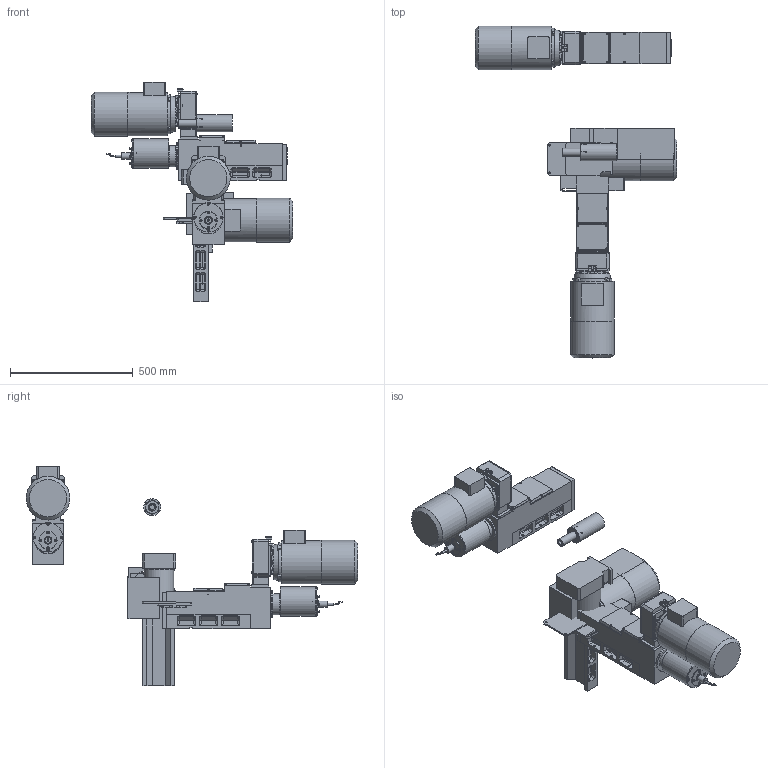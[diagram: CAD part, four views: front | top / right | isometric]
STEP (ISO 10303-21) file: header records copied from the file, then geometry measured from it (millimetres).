
FILE_DESCRIPTION( ( 'STEP AP203' ), '1' );
FILE_NAME( 'C:/Documents and Settings/Saverio/Desktop/disegni ironcad/unità serie 2/M216 (ex M220)/M 216_A05_P.stp', '2014-03-25T09:45:43', ( ' ' ), ( ' ' ), 'XStep 1.0', ' ', ' ' );
FILE_SCHEMA( ( 'CONFIG_CONTROL_DESIGN' ) );
Length unit declared in the file: metre
Products named in the file (47): Assem1; Assem2; Assem3; 1; 2; 3; 4; 5; 6; 7; 8; 9; 10; 11; 12; 13; 14; 15; 16; 17; 18; 19; 20; 21; 22; 23; 24; 25; 26; 27; 28; 29; 30; 31; 32; 33; 34; 35; 36; 37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
Bounding box: 823.57 x 1353.73 x 894.21 mm (x, y, z)
Volume: 56378989.3 mm3; surface area: 3937390 mm2
Topology: 132 solids, 132 shells, 3093 faces, 7002 edges, 4248 vertices
Faces by surface type: plane 1659, cylinder 792, cone 408, bspline 126, sphere 60, torus 48
Full cylindrical faces by diameter (mm): 5 x69, 5.25 x12, 5.5 x33, 6.5 x18, 6.637 x15, 6.647 x12, 7 x3, 8 x3, 8.385 x3, 8.5 x48, 8.75 x18, 18 x3, 20 x3, 24 x3, 26 x3, 31.2 x3, 32 x6, 52 x3, 53 x3, 54 x6, 70 x9, 74 x6, 76 x3, 80 x6, 86 x3, 95 x3, 112 x3, 120 x6, 177.21 x3, 179 x3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
Entity records: 31492 total; most frequent: CARTESIAN_POINT 7839, DIRECTION 4503, ORIENTED_EDGE 3992, EDGE_CURVE 1996, AXIS2_PLACEMENT_3D 1673, EDGE_LOOP 1403, VERTEX_POINT 1364, FACE_OUTER_BOUND 1157
